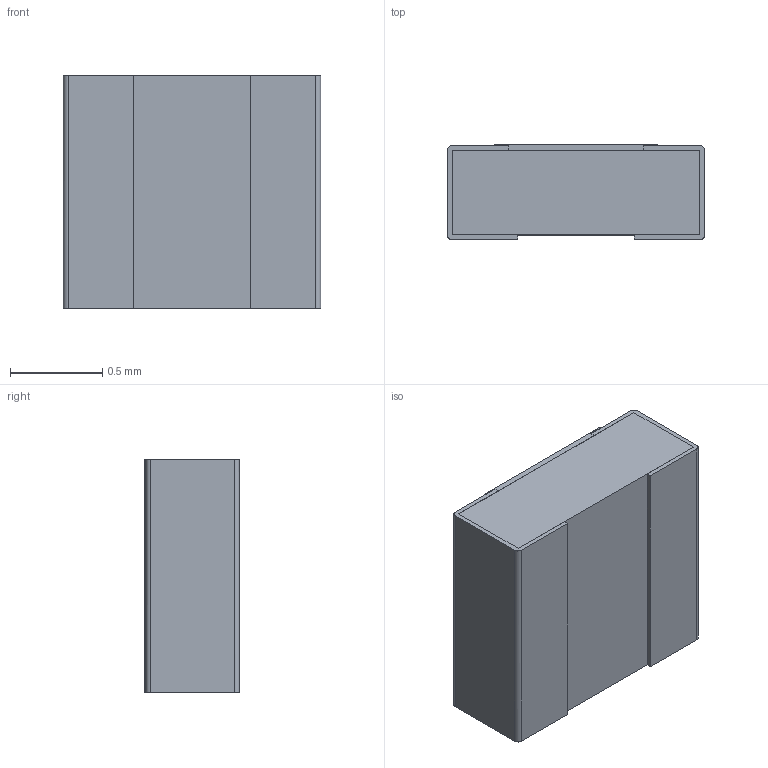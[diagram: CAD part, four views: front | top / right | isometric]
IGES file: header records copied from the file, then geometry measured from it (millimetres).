
Global section: file name: M55342-02; native system: Autodesk Inventor LT ; preprocessor: unknown; author: Neil; date: 20190911.151115; units: inch
Bounding box: 1.4 x 0.52 x 1.27 mm (x, y, z)
Volume: 0.9 mm3; surface area: 15.8 mm2
Topology: 5 solids, 5 shells, 50 faces, 120 edges, 80 vertices
Faces by surface type: bspline 50
